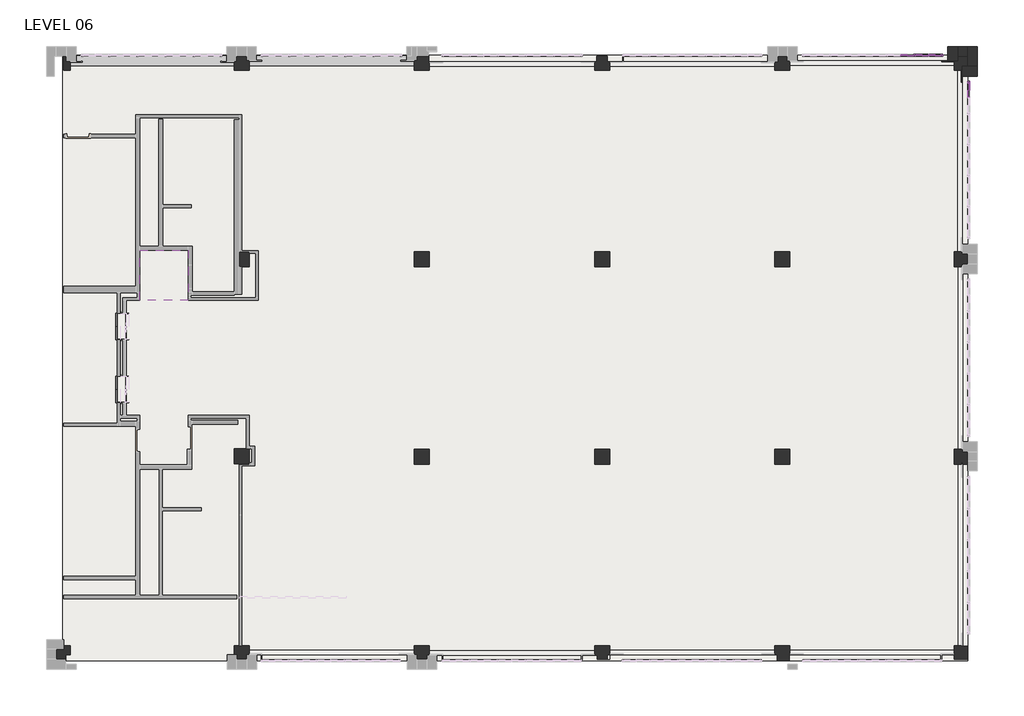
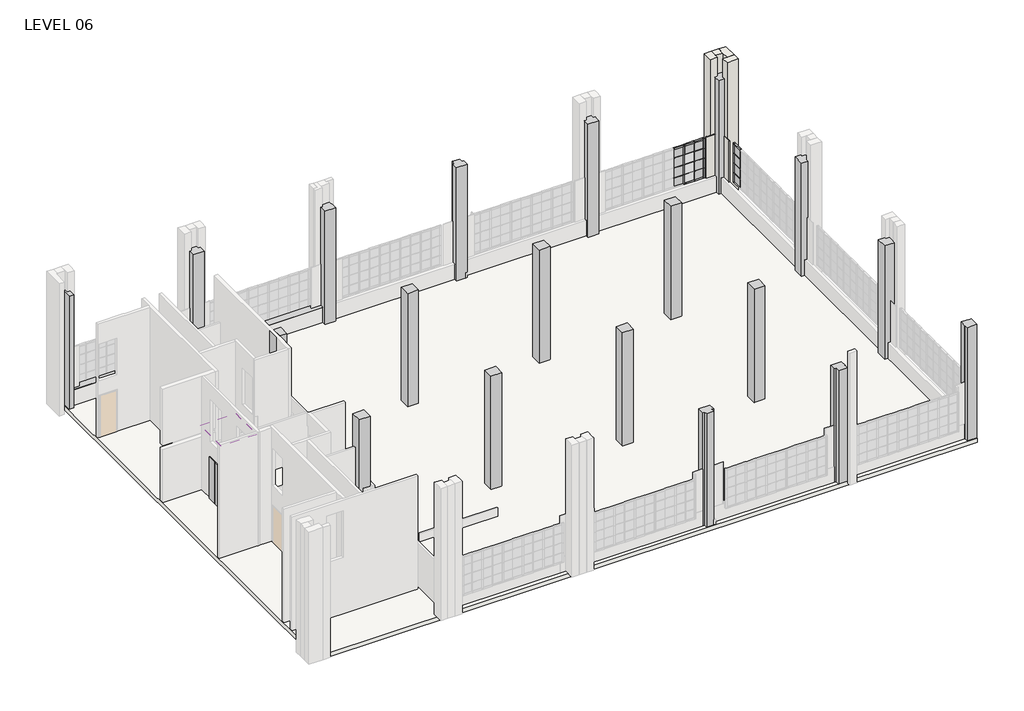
# One storey, part 16 of 16: 34 members, 22 columns, 13 plates, 9 proxies, 8 walls, 2 furniture elements, 1 covering, 1 slab.
"""IFC4 building model written with IfcOpenShell, lengths in millimetres."""

from ifc_helpers import new_model, si_unit, frame, origin, place, context, project, spatial, polyline, outline, extrude, faceted_brep, transform, mapped, element, save
from components import proxy_6c0da019, receptacle_wall_mounted_data_rectangular_face_plate_b5f3fb20, receptacle_wall_mounted_duplex_77620e8f, receptacle_wall_mounted_duplex_715ea828, architectural_rectangular_variable_dimensions_default_6b935929, furniture_2e8edbcf, furniture_16195ded, member_d9fe2114, member_fd592df6, member_78bb2ef1, member_dcd82389, member_17eb62f4, member_ba51e770, member_6e5aab5d, member_bacafba3, member_a6d649dc, member_fd366a57, system_panel_glazed_9a2ceec3, system_panel_glazed_95990db4, system_panel_glazed_84a10c8e, system_panel_glazed_44697018, system_panel_glazed_99b9b709, system_panel_glazed_bf1454fd

model = new_model("IFC4")

# Units and contexts
model_context = context("Model", 3, world=origin())
ifc_project = project(units=[si_unit("LENGTHUNIT", "METRE", prefix="MILLI")], contexts=[model_context])

# Site, building, storey
site = spatial("IfcSite", under=ifc_project)
building = spatial("IfcBuilding", under=site)
storey = spatial("IfcBuildingStorey", under=building, Name="LEVEL 06", Elevation=17449.8)

# Proxies
placement = place(None, origin())
proxy_shape = proxy_6c0da019(model_context)
element("IfcBuildingElementProxy", 1, Name="Elevator - Double Door - HW : 42\" x 96\"", ObjectType="Elevator - Double Door - HW : 42\" x 96\"", at=placement, inside=storey, context=model_context, shape_type="MappedRepresentation", body=[
    mapped(proxy_shape, transform((-35153.2082298, -14149.27762, 17449.8), x_axis=(0.0, -1.0, 0.0), y_axis=(1.0, 0.0, 0.0), z_axis=(0.0, 0.0, 1.0))),
])
element("IfcBuildingElementProxy", 2, Name="Elevator - Double Door - HW : 42\" x 96\"", ObjectType="Elevator - Double Door - HW : 42\" x 96\"", at=placement, inside=storey, context=model_context, shape_type="MappedRepresentation", body=[
    mapped(proxy_shape, transform((-35153.2082298, -11579.2714012, 17449.8), x_axis=(0.0, -1.0, 0.0), y_axis=(1.0, 0.0, 0.0), z_axis=(0.0, 0.0, 1.0))),
])
receptacle_wall_mounted_data_rectangular_face_plate_shape = receptacle_wall_mounted_data_rectangular_face_plate_b5f3fb20(model_context)
element("IfcBuildingElementProxy", 3, Name="Receptacle_Wall Mounted - Data : Rectangular Face Plate", ObjectType="Receptacle_Wall Mounted - Data : Rectangular Face Plate", at=placement, inside=storey, context=model_context, shape_type="MappedRepresentation", body=[
    mapped(receptacle_wall_mounted_data_rectangular_face_plate_shape, transform((-30177.9832282, -18093.8569272, 17449.8), x_axis=(0.0, -1.0, 0.0), y_axis=(1.0, 0.0, 0.0), z_axis=(0.0, 0.0, 1.0))),
])
receptacle_wall_mounted_duplex_shape = receptacle_wall_mounted_duplex_77620e8f(model_context)
element("IfcBuildingElementProxy", 4, Name="Receptacle_Wall Mounted - Duplex : Convenience", ObjectType="Receptacle_Wall Mounted - Duplex : Convenience", at=placement, inside=storey, context=model_context, shape_type="MappedRepresentation", body=[
    mapped(receptacle_wall_mounted_duplex_shape, transform((-32256.0222362, -10216.3282337, 17449.8), x_axis=(0.0, -1.0, 0.0), y_axis=(1.0, 0.0, 0.0), z_axis=(0.0, 0.0, 1.0))),
])
element("IfcBuildingElementProxy", 5, Name="Receptacle_Wall Mounted - Duplex : Convenience", ObjectType="Receptacle_Wall Mounted - Duplex : Convenience", at=placement, inside=storey, context=model_context, shape_type="MappedRepresentation", body=[
    mapped(receptacle_wall_mounted_data_rectangular_face_plate_shape, transform((-29881.1099596, -15553.5059789, 17449.8), x_axis=(0.0, -1.0, 0.0), y_axis=(1.0, 0.0, 0.0), z_axis=(0.0, 0.0, 1.0))),
])
element("IfcBuildingElementProxy", 6, Name="Receptacle_Wall Mounted - Duplex : Convenience", ObjectType="Receptacle_Wall Mounted - Duplex : Convenience", at=placement, inside=storey, context=model_context, shape_type="MappedRepresentation", body=[
    mapped(receptacle_wall_mounted_data_rectangular_face_plate_shape, transform((-30177.9832282, -17865.2569272, 17449.8), x_axis=(0.0, -1.0, 0.0), y_axis=(1.0, 0.0, 0.0), z_axis=(0.0, 0.0, 1.0))),
])
receptacle_wall_mounted_duplex_2_shape = receptacle_wall_mounted_duplex_715ea828(model_context)
element("IfcBuildingElementProxy", 7, Name="Receptacle_Wall Mounted - Duplex : Convenience", ObjectType="Receptacle_Wall Mounted - Duplex : Convenience", at=placement, inside=storey, context=model_context, shape_type="MappedRepresentation", body=[
    mapped(receptacle_wall_mounted_duplex_2_shape, transform((-15155.4599596, -24648.7440665, 17449.8), x_axis=(0.0, -1.0, 0.0), y_axis=(1.0, 0.0, 0.0), z_axis=(0.0, 0.0, 1.0))),
])
element("IfcBuildingElementProxy", 8, Name="Receptacle_Wall Mounted - Duplex : Convenience", ObjectType="Receptacle_Wall Mounted - Duplex : Convenience", at=placement, inside=storey, context=model_context, shape_type="MappedRepresentation", body=[
    mapped(receptacle_wall_mounted_duplex_2_shape, transform((-15155.4599596, -880.6940665, 17449.8), x_axis=(0.0, -1.0, 0.0), y_axis=(1.0, 0.0, 0.0), z_axis=(0.0, 0.0, 1.0))),
])
element("IfcBuildingElementProxy", 9, Name="Receptacle_Wall Mounted - Duplex : Convenience", ObjectType="Receptacle_Wall Mounted - Duplex : Convenience", at=placement, inside=storey, context=model_context, shape_type="MappedRepresentation", body=[
    mapped(receptacle_wall_mounted_duplex_shape, transform((-32256.0222362, -15318.5559789, 17449.8), x_axis=(0.0, -1.0, 0.0), y_axis=(1.0, 0.0, 0.0), z_axis=(0.0, 0.0, 1.0))),
])

# Columns
element("IfcColumn", 10, ObjectType="Architectural - Rectangular - Variable Dimensions : Default", at=placement, inside=storey, context=model_context, shape_type="SweptSolid", body=[
    extrude(outline(polyline([(-7742.4721136, -8425.3738171), (-7742.4721136, -9034.9738171), (-8352.0721136, -9034.9738171), (-8352.0721136, -8425.3738171), (-7742.4721136, -8425.3738171)])), frame((0.0, 0.0, 17449.8), z_axis=(0.0, 0.0, 1.0), x_axis=(1.0, 0.0, 0.0)), (0.0, 0.0, 1.0), 6705.6),
])
element("IfcColumn", 11, ObjectType="Architectural - Rectangular - Variable Dimensions : Default", at=placement, inside=storey, context=model_context, shape_type="Brep", body=[
    faceted_brep([(-7742.4721136, -24526.3101345, 24155.4), (-8352.0721136, -24526.3101345, 24155.4), (-8352.0721136, -24886.7398215, 24155.4), (-8252.0596136, -24886.7398215, 24155.4), (-8252.0596136, -25084.033955, 24155.4), (-8252.0596136, -25135.9101345, 24155.4), (-7830.7349596, -25135.9101345, 24155.4), (-7757.7099596, -25135.9101345, 24155.4), (-7757.7099596, -24886.7398215, 24155.4), (-7742.4721136, -24886.7398215, 24155.4), (-8352.0721136, -24526.3101345, 17449.8), (-7742.4721136, -24526.3101345, 17449.8), (-7742.4721136, -24886.7398215, 17449.8), (-7757.7099596, -24886.7398215, 17449.8), (-7757.7099596, -25135.9101345, 17449.8), (-7830.7349596, -25135.9101345, 17449.8), (-8252.0596136, -25135.9101345, 17449.8), (-8252.0596136, -25084.033955, 17449.8), (-8252.0596136, -24886.7398215, 17449.8), (-8352.0721136, -24886.7398215, 17449.8)], [[[0, 1, 2, 3, 4, 5, 6, 7, 8, 9]], [[10, 11, 12, 13, 14, 15, 16, 17, 18, 19]], [[1, 0, 11, 10]], [[1, 10, 19, 2]], [[14, 7, 6, 5, 16, 15]], [[11, 0, 9, 12]], [[9, 8, 13, 12]], [[8, 7, 14, 13]], [[3, 18, 17, 16, 5, 4]], [[18, 3, 2, 19]]]),
])
element("IfcColumn", 12, ObjectType="Architectural - Rectangular - Variable Dimensions : Default", at=placement, inside=storey, context=model_context, shape_type="SweptSolid", body=[
    extrude(outline(polyline([(-7742.4721136, -403.225), (-7742.4721136, -1012.825), (-8352.0721136, -1012.825), (-8352.0721136, -663.575), (-8246.7173649, -663.575), (-8246.7173649, -450.85), (-7842.4846136, -450.85), (-7842.4846136, -403.225), (-7742.4721136, -403.225)])), frame((0.0, 0.0, 17449.8), z_axis=(0.0, 0.0, 1.0), x_axis=(1.0, 0.0, 0.0)), (0.0, 0.0, 1.0), 6705.6),
])
element("IfcColumn", 13, ObjectType="Architectural - Rectangular - Variable Dimensions : Default", at=placement, inside=storey, context=model_context, shape_type="SweptSolid", body=[
    extrude(outline(polyline([(-1036.2349596, -9034.9738171), (-1036.2349596, -8425.3738171), (-709.2099596, -8425.3738171), (-709.2099596, -8518.525), (-480.6099596, -8518.525), (-480.6099596, -8934.9613171), (-677.4599596, -8934.9613171), (-677.4599596, -9034.9738171), (-1036.2349596, -9034.9738171)])), frame((0.0, 0.0, 17449.8), z_axis=(0.0, 0.0, 1.0), x_axis=(1.0, 0.0, 0.0)), (0.0, 0.0, 1.0), 6705.6),
])
element("IfcColumn", 14, ObjectType="Architectural - Rectangular - Variable Dimensions : Default", at=placement, inside=storey, context=model_context, shape_type="SweptSolid", body=[
    extrude(outline(polyline([(-1036.2349596, -17109.5101345), (-1036.2349596, -16499.9101345), (-677.4599596, -16499.9101345), (-677.4599596, -16593.0613171), (-480.6099596, -16593.0613171), (-480.6099596, -16984.3185128), (-483.7849596, -16984.3185128), (-483.7849596, -17109.5101345), (-1036.2349596, -17109.5101345)])), frame((0.0, 0.0, 17449.8), z_axis=(0.0, 0.0, 1.0), x_axis=(1.0, 0.0, 0.0)), (0.0, 0.0, 1.0), 6705.6),
])
element("IfcColumn", 15, ObjectType="Architectural - Rectangular - Variable Dimensions : Default", at=placement, inside=storey, context=model_context, shape_type="SweptSolid", body=[
    extrude(outline(polyline([(-480.6099596, -25083.5898215), (-1026.7099596, -25083.5898215), (-1026.7099596, -24886.7398215), (-1036.2349596, -24886.7398215), (-1036.2349596, -24526.3101345), (-683.8099596, -24526.3101345), (-683.8099596, -24550.3435128), (-480.6099596, -24550.3435128), (-480.6099596, -25083.5898215)])), frame((0.0, 0.0, 17449.8), z_axis=(0.0, 0.0, 1.0), x_axis=(1.0, 0.0, 0.0)), (0.0, 0.0, 1.0), 6705.6),
])
element("IfcColumn", 16, ObjectType="Architectural - Rectangular - Variable Dimensions : Default", at=placement, inside=storey, context=model_context, shape_type="SweptSolid", body=[
    extrude(outline(polyline([(-426.6349596, -1012.825), (-1036.2349596, -1012.825), (-1036.2349596, -631.825), (-890.1849596, -631.825), (-890.1849596, -450.85), (-480.6099596, -450.85), (-480.6099596, -860.425), (-426.6349596, -860.425), (-426.6349596, -1012.825)])), frame((0.0, 0.0, 17449.8), z_axis=(0.0, 0.0, 1.0), x_axis=(1.0, 0.0, 0.0)), (0.0, 0.0, 1.0), 6705.6),
])
element("IfcColumn", 17, ObjectType="Architectural - Rectangular - Variable Dimensions : Default", at=placement, inside=storey, context=model_context, shape_type="SweptSolid", body=[
    extrude(outline(polyline([(-15107.8349596, -8425.3738171), (-15107.8349596, -9034.9738171), (-15717.4349596, -9034.9738171), (-15717.4349596, -8425.3738171), (-15107.8349596, -8425.3738171)])), frame((0.0, 0.0, 17449.8), z_axis=(0.0, 0.0, 1.0), x_axis=(1.0, 0.0, 0.0)), (0.0, 0.0, 1.0), 6705.6),
])
element("IfcColumn", 18, ObjectType="Architectural - Rectangular - Variable Dimensions : Default", at=placement, inside=storey, context=model_context, shape_type="SweptSolid", body=[
    extrude(outline(polyline([(-15107.8349596, -16499.9101345), (-15107.8349596, -17109.5101345), (-15717.4349596, -17109.5101345), (-15717.4349596, -16499.9101345), (-15107.8349596, -16499.9101345)])), frame((0.0, 0.0, 17449.8), z_axis=(0.0, 0.0, 1.0), x_axis=(1.0, 0.0, 0.0)), (0.0, 0.0, 1.0), 6705.6),
])
element("IfcColumn", 19, ObjectType="Architectural - Rectangular - Variable Dimensions : Default", at=placement, inside=storey, context=model_context, shape_type="SweptSolid", body=[
    extrude(outline(polyline([(-15717.4349596, -24526.3101345), (-15107.8349596, -24526.3101345), (-15107.8349596, -24886.7398215), (-15198.9596136, -24886.7398215), (-15198.9596136, -25084.033955), (-15613.9342677, -25084.033955), (-15613.9342677, -24903.058955), (-15717.4349596, -24903.058955), (-15717.4349596, -24526.3101345)])), frame((0.0, 0.0, 17449.8), z_axis=(0.0, 0.0, 1.0), x_axis=(1.0, 0.0, 0.0)), (0.0, 0.0, 1.0), 6705.6),
])
element("IfcColumn", 20, ObjectType="Architectural - Rectangular - Variable Dimensions : Default", at=placement, inside=storey, context=model_context, shape_type="SweptSolid", body=[
    extrude(outline(polyline([(-15107.8349596, -1012.825), (-15717.4349596, -1012.825), (-15717.4349596, -663.575), (-15619.3339217, -663.575), (-15619.3339217, -450.85), (-15203.0849596, -450.85), (-15203.0849596, -663.575), (-15107.8349596, -663.575), (-15107.8349596, -1012.825)])), frame((0.0, 0.0, 17449.8), z_axis=(0.0, 0.0, 1.0), x_axis=(1.0, 0.0, 0.0)), (0.0, 0.0, 1.0), 6705.6),
])
element("IfcColumn", 21, ObjectType="Architectural - Rectangular - Variable Dimensions : Default", at=placement, inside=storey, context=model_context, shape_type="SweptSolid", body=[
    extrude(outline(polyline([(-22467.4849596, -8425.3738171), (-22467.4849596, -9034.9738171), (-23077.0849596, -9034.9738171), (-23077.0849596, -8425.3738171), (-22467.4849596, -8425.3738171)])), frame((0.0, 0.0, 17449.8), z_axis=(0.0, 0.0, 1.0), x_axis=(1.0, 0.0, 0.0)), (0.0, 0.0, 1.0), 6705.6),
])
element("IfcColumn", 22, ObjectType="Architectural - Rectangular - Variable Dimensions : Default", at=placement, inside=storey, context=model_context, shape_type="SweptSolid", body=[
    extrude(outline(polyline([(-22467.4849596, -16499.9101345), (-22467.4849596, -17109.5101345), (-23077.0849596, -17109.5101345), (-23077.0849596, -16499.9101345), (-22467.4849596, -16499.9101345)])), frame((0.0, 0.0, 17449.8), z_axis=(0.0, 0.0, 1.0), x_axis=(1.0, 0.0, 0.0)), (0.0, 0.0, 1.0), 6705.6),
])
element("IfcColumn", 23, ObjectType="Architectural - Rectangular - Variable Dimensions : Default", at=placement, inside=storey, context=model_context, shape_type="SweptSolid", body=[
    extrude(outline(polyline([(-22467.4849596, -1012.825), (-23077.0849596, -1012.825), (-23077.0849596, -612.775), (-22981.2085758, -612.775), (-22981.2085758, -450.85), (-22499.5589217, -450.85), (-22499.5589217, -663.575), (-22467.4849596, -663.575), (-22467.4849596, -1012.825)])), frame((0.0, 0.0, 17449.8), z_axis=(0.0, 0.0, 1.0), x_axis=(1.0, 0.0, 0.0)), (0.0, 0.0, 1.0), 6705.6),
])
element("IfcColumn", 24, ObjectType="Architectural - Rectangular - Variable Dimensions : Default", at=placement, inside=storey, context=model_context, shape_type="SweptSolid", body=[
    extrude(outline(polyline([(-29827.1349596, -8425.3738171), (-29827.1349596, -9034.9738171), (-30231.9582282, -9034.9738171), (-30231.9582282, -8425.3738171), (-29827.1349596, -8425.3738171)])), frame((0.0, 0.0, 17449.8), z_axis=(0.0, 0.0, 1.0), x_axis=(1.0, 0.0, 0.0)), (0.0, 0.0, 1.0), 6705.6),
    extrude(outline(polyline([(-30436.7349596, -9034.9738171), (-30436.7349596, -8425.3738171), (-30435.1582282, -8425.3738171), (-30435.1582282, -9034.9738171), (-30436.7349596, -9034.9738171)])), frame((0.0, 0.0, 17449.8), z_axis=(0.0, 0.0, 1.0), x_axis=(1.0, 0.0, 0.0)), (0.0, 0.0, 1.0), 6705.6),
])
element("IfcColumn", 25, ObjectType="Architectural - Rectangular - Variable Dimensions : Default", at=placement, inside=storey, context=model_context, shape_type="SweptSolid", body=[
    extrude(outline(polyline([(-30436.7349596, -24526.3101345), (-29827.1349596, -24526.3101345), (-29827.1349596, -24881.6862062), (-29922.7089217, -24881.6862062), (-29922.7089217, -25084.033955), (-30327.2082298, -25084.033955), (-30327.2082298, -24880.833955), (-30436.7349596, -24880.833955), (-30436.7349596, -24526.3101345)])), frame((0.0, 0.0, 17449.8), z_axis=(0.0, 0.0, 1.0), x_axis=(1.0, 0.0, 0.0)), (0.0, 0.0, 1.0), 6705.6),
])
element("IfcColumn", 26, ObjectType="Architectural - Rectangular - Variable Dimensions : Default", at=placement, inside=storey, context=model_context, shape_type="SweptSolid", body=[
    extrude(outline(polyline([(-29827.1349596, -1012.825), (-30436.7349596, -1012.825), (-30436.7349596, -403.225), (-30343.0832298, -403.225), (-30343.0832298, -450.85), (-29928.1085758, -450.85), (-29928.1085758, -612.775), (-29827.1349596, -612.775), (-29827.1349596, -1012.825)])), frame((0.0, 0.0, 17449.8), z_axis=(0.0, 0.0, 1.0), x_axis=(1.0, 0.0, 0.0)), (0.0, 0.0, 1.0), 6705.6),
])
element("IfcColumn", 27, ObjectType="Architectural - Rectangular - Variable Dimensions : Default", at=placement, inside=storey, context=model_context, shape_type="SweptSolid", body=[
    extrude(outline(polyline([(-37699.5582298, -25084.033955), (-37699.5582298, -24674.458955), (-37391.5832298, -24674.458955), (-37391.5832298, -24526.3101345), (-37135.9849596, -24526.3101345), (-37135.9849596, -24880.833955), (-37309.0332298, -24880.833955), (-37309.0332298, -25084.033955), (-37699.5582298, -25084.033955)])), frame((0.0, 0.0, 17449.8), z_axis=(0.0, 0.0, 1.0), x_axis=(1.0, 0.0, 0.0)), (0.0, 0.0, 1.0), 6705.6),
])
element("IfcColumn", 28, ObjectType="Architectural - Rectangular - Variable Dimensions : Default", at=placement, inside=storey, context=model_context, shape_type="Brep", body=[
    faceted_brep([(-37391.5832298, -1012.825, 24155.4), (-37135.9849596, -1012.825, 24155.4), (-37135.9849596, -654.05, 24155.4), (-37289.9832298, -654.05, 24155.4), (-37289.9832298, -450.85, 24155.4), (-37391.5832298, -450.85, 24155.4), (-37135.9849596, -1012.825, 17449.8), (-37391.5832298, -1012.825, 17449.8), (-37135.9849596, -654.05, 17449.8), (-37289.9832298, -450.85, 17449.8), (-37391.5832298, -450.85, 17449.8), (-37391.5832298, -450.85, 20574.0), (-37391.5832298, -450.85, 20802.6), (-37289.9832298, -654.05, 17449.8)], [[[0, 1, 2, 3, 4, 5]], [[6, 1, 0, 7]], [[1, 6, 8, 2]], [[5, 4, 9, 10, 11, 12]], [[0, 5, 12, 11, 10, 7]], [[3, 13, 9, 4]], [[13, 3, 2, 8]], [[8, 6, 7, 10, 9, 13]]]),
])
element("IfcColumn", 29, ObjectType="Architectural - Rectangular - Variable Dimensions : Default", at=placement, inside=storey, context=model_context, shape_type="SweptSolid", body=[
    extrude(outline(polyline([(-29827.1349596, -17096.8106631), (-30436.7349596, -17096.8106631), (-30436.7349596, -16487.2106631), (-29827.1349596, -16487.2106631), (-29827.1349596, -17096.8106631)])), frame((0.0, 0.0, 17449.8), z_axis=(0.0, 0.0, 1.0), x_axis=(1.0, 0.0, 0.0)), (0.0, 0.0, 1.0), 6705.6),
])
architectural_rectangular_variable_dimensions_default_shape = architectural_rectangular_variable_dimensions_default_6b935929(model_context)
element("IfcColumn", 30, ObjectType="Architectural - Rectangular - Variable Dimensions : Default", at=placement, inside=storey, context=model_context, shape_type="MappedRepresentation", body=[
    mapped(architectural_rectangular_variable_dimensions_default_shape, transform((-8047.2721136, -16503.3871205, 0.0), x_axis=(1.0, 0.0, 0.0), y_axis=(0.0, 1.0, 0.0), z_axis=(0.0, 0.0, 1.0))),
])
element("IfcColumn", 31, ObjectType="Architectural - Rectangular - Variable Dimensions : Default", at=placement, inside=storey, context=model_context, shape_type="MappedRepresentation", body=[
    mapped(architectural_rectangular_variable_dimensions_default_shape, transform((-22772.2849596, -24529.7871205, 0.0), x_axis=(1.0, 0.0, 0.0), y_axis=(0.0, 1.0, 0.0), z_axis=(0.0, 0.0, 1.0))),
])

# Covering
element("IfcCovering", 32, ObjectType="1/2\" GWB  on 6\" Metal Stud", at=placement, inside=storey, context=model_context, shape_type="SweptSolid", body=[
    extrude(outline(polyline([(-34295.9623534, -17167.9919741), (-34295.9623534, -15116.9419725), (-32309.9972362, -15116.9419725), (-32309.9972362, -17167.9919741), (-34295.9623534, -17167.9919741)])), frame((0.0, 0.0, 19888.2), z_axis=(0.0, 0.0, 1.0), x_axis=(1.0, 0.0, 0.0)), (0.0, 0.0, 1.0), 152.4),
    extrude(outline(polyline([(-34295.9582282, -8360.5418823), (-32309.9972362, -8360.5418823), (-32309.9972362, -10417.9422401), (-34295.9582282, -10417.9422401), (-34295.9582282, -8360.5418823)])), frame((0.0, 0.0, 19888.2), z_axis=(0.0, 0.0, 1.0), x_axis=(1.0, 0.0, 0.0)), (0.0, 0.0, 1.0), 152.4),
])

# Furniture
furniture_shape = furniture_2e8edbcf(model_context)
element("IfcFurniture", 33, ObjectType="Countertop - Straight : 16\" DEPTH - WINDOW SILL", at=placement, inside=storey, context=model_context, shape_type="MappedRepresentation", body=[
    mapped(furniture_shape, transform((-35935.5226645, -431.8, 17519.65), x_axis=(1.0, 0.0, 0.0), y_axis=(0.0, 1.0, 0.0), z_axis=(0.0, 0.0, 1.0))),
])
furniture_2_shape = furniture_16195ded(model_context)
element("IfcFurniture", 34, ObjectType="Countertop - Straight : 16\" DEPTH - WINDOW SILL", at=placement, inside=storey, context=model_context, shape_type="MappedRepresentation", body=[
    mapped(furniture_2_shape, transform((-28648.7463306, -431.8, 17519.65), x_axis=(1.0, 0.0, 0.0), y_axis=(0.0, 1.0, 0.0), z_axis=(0.0, 0.0, 1.0))),
])

# Members
member_shape = member_d9fe2114(model_context)
element("IfcMember", 35, ObjectType="Rectangular Mullion : 1\" x 1\" - Butt Joint", at=placement, inside=storey, context=model_context, shape_type="MappedRepresentation", body=[
    mapped(member_shape, transform((-2680.1771519, -412.75, 19989.8), x_axis=(0.0, 0.0, 1.0), y_axis=(0.0, -1.0, 0.0), z_axis=(1.0, 0.0, 0.0))),
])
element("IfcMember", 36, ObjectType="Rectangular Mullion : 1\" x 1\" - Butt Joint", at=placement, inside=storey, context=model_context, shape_type="MappedRepresentation", body=[
    mapped(member_shape, transform((-2080.7371519, -412.75, 19989.8), x_axis=(0.0, 0.0, 1.0), y_axis=(0.0, -1.0, 0.0), z_axis=(1.0, 0.0, 0.0))),
])
element("IfcMember", 37, ObjectType="Rectangular Mullion : 1\" x 1\" - Butt Joint", at=placement, inside=storey, context=model_context, shape_type="MappedRepresentation", body=[
    mapped(member_shape, transform((-2680.1771519, -412.75, 19405.6), x_axis=(0.0, 0.0, 1.0), y_axis=(0.0, -1.0, 0.0), z_axis=(1.0, 0.0, 0.0))),
])
element("IfcMember", 38, ObjectType="Rectangular Mullion : 1\" x 1\" - Butt Joint", at=placement, inside=storey, context=model_context, shape_type="MappedRepresentation", body=[
    mapped(member_shape, transform((-2080.7371519, -412.75, 19405.6), x_axis=(0.0, 0.0, 1.0), y_axis=(0.0, -1.0, 0.0), z_axis=(1.0, 0.0, 0.0))),
])
element("IfcMember", 39, ObjectType="Rectangular Mullion : 1\" x 1\" - Butt Joint", at=placement, inside=storey, context=model_context, shape_type="MappedRepresentation", body=[
    mapped(member_shape, transform((-2680.1771519, -412.75, 18821.4), x_axis=(0.0, 0.0, 1.0), y_axis=(0.0, -1.0, 0.0), z_axis=(1.0, 0.0, 0.0))),
])
element("IfcMember", 40, ObjectType="Rectangular Mullion : 1\" x 1\" - Butt Joint", at=placement, inside=storey, context=model_context, shape_type="MappedRepresentation", body=[
    mapped(member_shape, transform((-2080.7371519, -412.75, 18821.4), x_axis=(0.0, 0.0, 1.0), y_axis=(0.0, -1.0, 0.0), z_axis=(1.0, 0.0, 0.0))),
])
member_2_shape = member_fd592df6(model_context)
element("IfcMember", 41, ObjectType="Rectangular Mullion : 1\" x 1\" - Butt Joint", at=placement, inside=storey, context=model_context, shape_type="MappedRepresentation", body=[
    mapped(member_2_shape, transform((-1570.1971519, -412.75, 19989.8), x_axis=(0.0, 0.0, 1.0), y_axis=(0.0, -1.0, 0.0), z_axis=(1.0, 0.0, 0.0))),
])
element("IfcMember", 42, ObjectType="Rectangular Mullion : 1\" x 1\" - Butt Joint", at=placement, inside=storey, context=model_context, shape_type="MappedRepresentation", body=[
    mapped(member_2_shape, transform((-1570.1971519, -412.75, 19405.6), x_axis=(0.0, 0.0, 1.0), y_axis=(0.0, -1.0, 0.0), z_axis=(1.0, 0.0, 0.0))),
])
element("IfcMember", 43, ObjectType="Rectangular Mullion : 1\" x 1\" - Butt Joint", at=placement, inside=storey, context=model_context, shape_type="MappedRepresentation", body=[
    mapped(member_2_shape, transform((-1570.1971519, -412.75, 18821.4), x_axis=(0.0, 0.0, 1.0), y_axis=(0.0, -1.0, 0.0), z_axis=(1.0, 0.0, 0.0))),
])
member_3_shape = member_78bb2ef1(model_context)
element("IfcMember", 44, ObjectType="Rectangular Mullion : 1\" x 1\" - Butt Joint", at=placement, inside=storey, context=model_context, shape_type="MappedRepresentation", body=[
    mapped(member_3_shape, transform((-2068.0371519, -412.75, 19989.8), x_axis=(1.0, 0.0, 0.0), y_axis=(0.0, -1.0, 0.0), z_axis=(0.0, 0.0, -1.0))),
])
element("IfcMember", 45, ObjectType="Rectangular Mullion : 1\" x 1\" - Butt Joint", at=placement, inside=storey, context=model_context, shape_type="MappedRepresentation", body=[
    mapped(member_3_shape, transform((-2068.0371519, -412.75, 18821.4), x_axis=(1.0, 0.0, 0.0), y_axis=(0.0, -1.0, 0.0), z_axis=(0.0, 0.0, -1.0))),
])
element("IfcMember", 46, ObjectType="Rectangular Mullion : 1\" x 1\" - Butt Joint", at=placement, inside=storey, context=model_context, shape_type="MappedRepresentation", body=[
    mapped(member_3_shape, transform((-2068.0371519, -412.75, 19405.6), x_axis=(1.0, 0.0, 0.0), y_axis=(0.0, -1.0, 0.0), z_axis=(0.0, 0.0, -1.0))),
])
element("IfcMember", 47, ObjectType="Rectangular Mullion : 1\" x 1\" - Butt Joint", at=placement, inside=storey, context=model_context, shape_type="MappedRepresentation", body=[
    mapped(member_3_shape, transform((-2068.0371519, -412.75, 18237.2), x_axis=(1.0, 0.0, 0.0), y_axis=(0.0, -1.0, 0.0), z_axis=(0.0, 0.0, -1.0))),
])
member_4_shape = member_dcd82389(model_context)
element("IfcMember", 48, ObjectType="Rectangular Mullion : 1\" x 1\" - Butt Joint", at=placement, inside=storey, context=model_context, shape_type="MappedRepresentation", body=[
    mapped(member_4_shape, transform((-445.6849596, -1539.9470775, 19989.8), x_axis=(0.0, 0.0, 1.0), y_axis=(1.0, 0.0, 0.0), z_axis=(0.0, 1.0, 0.0))),
])
element("IfcMember", 49, ObjectType="Rectangular Mullion : 1\" x 1\" - Butt Joint", at=placement, inside=storey, context=model_context, shape_type="MappedRepresentation", body=[
    mapped(member_4_shape, transform((-445.6849596, -1539.9470775, 19405.6), x_axis=(0.0, 0.0, 1.0), y_axis=(1.0, 0.0, 0.0), z_axis=(0.0, 1.0, 0.0))),
])
element("IfcMember", 50, ObjectType="Rectangular Mullion : 1\" x 1\" - Butt Joint", at=placement, inside=storey, context=model_context, shape_type="MappedRepresentation", body=[
    mapped(member_4_shape, transform((-445.6849596, -1539.9470775, 18821.4), x_axis=(0.0, 0.0, 1.0), y_axis=(1.0, 0.0, 0.0), z_axis=(0.0, 1.0, 0.0))),
])
member_5_shape = member_17eb62f4(model_context)
element("IfcMember", 51, ObjectType="Rectangular Mullion : 3\" x 3\" Window Jamb", at=placement, inside=storey, context=model_context, shape_type="MappedRepresentation", body=[
    mapped(member_5_shape, transform((-445.6849596, -1463.7470775, 19989.8), x_axis=(0.0, 1.0, 0.0), y_axis=(1.0, 0.0, 0.0), z_axis=(0.0, 0.0, -1.0))),
])
element("IfcMember", 52, ObjectType="Rectangular Mullion : 3\" x 3\" Window Jamb", at=placement, inside=storey, context=model_context, shape_type="MappedRepresentation", body=[
    mapped(member_5_shape, transform((-445.6849596, -1463.7470775, 18821.4), x_axis=(0.0, 1.0, 0.0), y_axis=(1.0, 0.0, 0.0), z_axis=(0.0, 0.0, -1.0))),
])
element("IfcMember", 53, ObjectType="Rectangular Mullion : 3\" x 3\" Window Jamb", at=placement, inside=storey, context=model_context, shape_type="MappedRepresentation", body=[
    mapped(member_5_shape, transform((-445.6849596, -1463.7470775, 19405.6), x_axis=(0.0, 1.0, 0.0), y_axis=(1.0, 0.0, 0.0), z_axis=(0.0, 0.0, -1.0))),
])
element("IfcMember", 54, ObjectType="Rectangular Mullion : 3\" x 3\" Window Jamb", at=placement, inside=storey, context=model_context, shape_type="MappedRepresentation", body=[
    mapped(member_5_shape, transform((-445.6849596, -1463.7470775, 18237.2), x_axis=(0.0, 1.0, 0.0), y_axis=(1.0, 0.0, 0.0), z_axis=(0.0, 0.0, -1.0))),
])
member_6_shape = member_ba51e770(model_context)
element("IfcMember", 55, ObjectType="Rectangular Mullion : 3\" x 3\" Window Jamb", at=placement, inside=storey, context=model_context, shape_type="MappedRepresentation", body=[
    mapped(member_6_shape, transform((-1570.1971519, -412.75, 20574.0), x_axis=(0.0, 0.0, 1.0), y_axis=(0.0, -1.0, 0.0), z_axis=(1.0, 0.0, 0.0))),
])
member_7_shape = member_6e5aab5d(model_context)
element("IfcMember", 56, ObjectType="Rectangular Mullion : 3\" x 3\" Window Jamb", at=placement, inside=storey, context=model_context, shape_type="MappedRepresentation", body=[
    mapped(member_7_shape, transform((-2080.7371519, -412.75, 20574.0), x_axis=(0.0, 0.0, 1.0), y_axis=(0.0, -1.0, 0.0), z_axis=(1.0, 0.0, 0.0))),
])
element("IfcMember", 57, ObjectType="Rectangular Mullion : 3\" x 3\" Window Jamb", at=placement, inside=storey, context=model_context, shape_type="MappedRepresentation", body=[
    mapped(member_7_shape, transform((-2680.1771519, -412.75, 20574.0), x_axis=(0.0, 0.0, 1.0), y_axis=(0.0, -1.0, 0.0), z_axis=(1.0, 0.0, 0.0))),
])
element("IfcMember", 58, ObjectType="Rectangular Mullion : 3\" x 3\" Window Jamb", at=placement, inside=storey, context=model_context, shape_type="MappedRepresentation", body=[
    mapped(member_7_shape, transform((-2603.9771519, -412.75, 18237.2), x_axis=(0.0, 0.0, -1.0), y_axis=(0.0, -1.0, 0.0), z_axis=(-1.0, 0.0, 0.0))),
])
element("IfcMember", 59, ObjectType="Rectangular Mullion : 3\" x 3\" Window Jamb", at=placement, inside=storey, context=model_context, shape_type="MappedRepresentation", body=[
    mapped(member_6_shape, transform((-2055.3371519, -412.75, 18237.2), x_axis=(0.0, 0.0, -1.0), y_axis=(0.0, -1.0, 0.0), z_axis=(-1.0, 0.0, 0.0))),
])
member_8_shape = member_bacafba3(model_context)
element("IfcMember", 60, ObjectType="Rectangular Mullion : 3\" x 3\" Window Jamb", at=placement, inside=storey, context=model_context, shape_type="MappedRepresentation", body=[
    mapped(member_8_shape, transform((-2642.0771519, -412.75, 19989.8), x_axis=(1.0, 0.0, 0.0), y_axis=(0.0, -1.0, 0.0), z_axis=(0.0, 0.0, -1.0))),
])
element("IfcMember", 61, ObjectType="Rectangular Mullion : 3\" x 3\" Window Jamb", at=placement, inside=storey, context=model_context, shape_type="MappedRepresentation", body=[
    mapped(member_8_shape, transform((-2642.0771519, -412.75, 18821.4), x_axis=(1.0, 0.0, 0.0), y_axis=(0.0, -1.0, 0.0), z_axis=(0.0, 0.0, -1.0))),
])
element("IfcMember", 62, ObjectType="Rectangular Mullion : 3\" x 3\" Window Jamb", at=placement, inside=storey, context=model_context, shape_type="MappedRepresentation", body=[
    mapped(member_8_shape, transform((-2642.0771519, -412.75, 19405.6), x_axis=(1.0, 0.0, 0.0), y_axis=(0.0, -1.0, 0.0), z_axis=(0.0, 0.0, -1.0))),
])
element("IfcMember", 63, ObjectType="Rectangular Mullion : 3\" x 3\" Window Jamb", at=placement, inside=storey, context=model_context, shape_type="MappedRepresentation", body=[
    mapped(member_8_shape, transform((-2642.0771519, -412.75, 18237.2), x_axis=(1.0, 0.0, 0.0), y_axis=(0.0, -1.0, 0.0), z_axis=(0.0, 0.0, -1.0))),
])
member_9_shape = member_a6d649dc(model_context)
element("IfcMember", 64, ObjectType="Rectangular Mullion : 3\" x 3\" Window Jamb", at=placement, inside=storey, context=model_context, shape_type="MappedRepresentation", body=[
    mapped(member_9_shape, transform((-1493.9971519, -412.75, 19989.8), x_axis=(1.0, 0.0, 0.0), y_axis=(0.0, -1.0, 0.0), z_axis=(0.0, 0.0, -1.0))),
])
element("IfcMember", 65, ObjectType="Rectangular Mullion : 3\" x 3\" Window Jamb", at=placement, inside=storey, context=model_context, shape_type="MappedRepresentation", body=[
    mapped(member_9_shape, transform((-1493.9971519, -412.75, 18821.4), x_axis=(1.0, 0.0, 0.0), y_axis=(0.0, -1.0, 0.0), z_axis=(0.0, 0.0, -1.0))),
])
element("IfcMember", 66, ObjectType="Rectangular Mullion : 3\" x 3\" Window Jamb", at=placement, inside=storey, context=model_context, shape_type="MappedRepresentation", body=[
    mapped(member_9_shape, transform((-1493.9971519, -412.75, 19405.6), x_axis=(1.0, 0.0, 0.0), y_axis=(0.0, -1.0, 0.0), z_axis=(0.0, 0.0, -1.0))),
])
element("IfcMember", 67, ObjectType="Rectangular Mullion : 3\" x 3\" Window Jamb", at=placement, inside=storey, context=model_context, shape_type="MappedRepresentation", body=[
    mapped(member_9_shape, transform((-1493.9971519, -412.75, 18237.2), x_axis=(1.0, 0.0, 0.0), y_axis=(0.0, -1.0, 0.0), z_axis=(0.0, 0.0, -1.0))),
])
member_10_shape = member_fd366a57(model_context)
element("IfcMember", 68, ObjectType="Rectangular Mullion : 3\" x 3\" Window Jamb", at=placement, inside=storey, context=model_context, shape_type="MappedRepresentation", body=[
    mapped(member_10_shape, transform((-445.6849596, -1539.9470775, 20574.0), x_axis=(0.0, 0.0, 1.0), y_axis=(1.0, 0.0, 0.0), z_axis=(0.0, 1.0, 0.0))),
])

# Plates
system_panel_glazed_shape = system_panel_glazed_9a2ceec3(model_context)
element("IfcPlate", 69, ObjectType="System Panel : Glazed", at=placement, inside=storey, context=model_context, shape_type="MappedRepresentation", body=[
    mapped(system_panel_glazed_shape, transform((-445.6849596, -1830.2109796, 18313.4), x_axis=(0.0, 1.0, 0.0), y_axis=(-1.0, 0.0, 0.0), z_axis=(0.0, 0.0, 1.0))),
])
element("IfcPlate", 70, ObjectType="System Panel : Glazed", at=placement, inside=storey, context=model_context, shape_type="MappedRepresentation", body=[
    mapped(system_panel_glazed_shape, transform((-445.6849596, -1830.2109796, 20002.5), x_axis=(0.0, 1.0, 0.0), y_axis=(-1.0, 0.0, 0.0), z_axis=(0.0, 0.0, 1.0))),
])
system_panel_glazed_2_shape = system_panel_glazed_95990db4(model_context)
element("IfcPlate", 71, ObjectType="System Panel : Glazed", at=placement, inside=storey, context=model_context, shape_type="MappedRepresentation", body=[
    mapped(system_panel_glazed_2_shape, transform((-445.6849596, -1830.2109796, 18834.1), x_axis=(0.0, 1.0, 0.0), y_axis=(-1.0, 0.0, 0.0), z_axis=(0.0, 0.0, 1.0))),
])
element("IfcPlate", 72, ObjectType="System Panel : Glazed", at=placement, inside=storey, context=model_context, shape_type="MappedRepresentation", body=[
    mapped(system_panel_glazed_2_shape, transform((-445.6849596, -1830.2109796, 19418.3), x_axis=(0.0, 1.0, 0.0), y_axis=(-1.0, 0.0, 0.0), z_axis=(0.0, 0.0, 1.0))),
])
system_panel_glazed_3_shape = system_panel_glazed_84a10c8e(model_context)
element("IfcPlate", 73, ObjectType="System Panel : Glazed", at=placement, inside=storey, context=model_context, shape_type="MappedRepresentation", body=[
    mapped(system_panel_glazed_3_shape, transform((-1812.7671519, -412.75, 18313.4), x_axis=(1.0, 0.0, 0.0), y_axis=(0.0, 1.0, 0.0), z_axis=(0.0, 0.0, 1.0))),
])
element("IfcPlate", 74, ObjectType="System Panel : Glazed", at=placement, inside=storey, context=model_context, shape_type="MappedRepresentation", body=[
    mapped(system_panel_glazed_3_shape, transform((-1812.7671519, -412.75, 20002.5), x_axis=(1.0, 0.0, 0.0), y_axis=(0.0, 1.0, 0.0), z_axis=(0.0, 0.0, 1.0))),
])
system_panel_glazed_4_shape = system_panel_glazed_44697018(model_context)
element("IfcPlate", 75, ObjectType="System Panel : Glazed", at=placement, inside=storey, context=model_context, shape_type="MappedRepresentation", body=[
    mapped(system_panel_glazed_4_shape, transform((-2342.3571519, -412.75, 20002.5), x_axis=(1.0, 0.0, 0.0), y_axis=(0.0, 1.0, 0.0), z_axis=(0.0, 0.0, 1.0))),
])
element("IfcPlate", 76, ObjectType="System Panel : Glazed", at=placement, inside=storey, context=model_context, shape_type="MappedRepresentation", body=[
    mapped(system_panel_glazed_4_shape, transform((-2941.7971519, -412.75, 18313.4), x_axis=(1.0, 0.0, 0.0), y_axis=(0.0, 1.0, 0.0), z_axis=(0.0, 0.0, 1.0))),
])
element("IfcPlate", 77, ObjectType="System Panel : Glazed", at=placement, inside=storey, context=model_context, shape_type="MappedRepresentation", body=[
    mapped(system_panel_glazed_4_shape, transform((-2941.7971519, -412.75, 20002.5), x_axis=(1.0, 0.0, 0.0), y_axis=(0.0, 1.0, 0.0), z_axis=(0.0, 0.0, 1.0))),
])
system_panel_glazed_5_shape = system_panel_glazed_99b9b709(model_context)
element("IfcPlate", 78, ObjectType="System Panel : Glazed", at=placement, inside=storey, context=model_context, shape_type="MappedRepresentation", body=[
    mapped(system_panel_glazed_5_shape, transform((-1812.7671519, -412.75, 18834.1), x_axis=(1.0, 0.0, 0.0), y_axis=(0.0, 1.0, 0.0), z_axis=(0.0, 0.0, 1.0))),
])
element("IfcPlate", 79, ObjectType="System Panel : Glazed", at=placement, inside=storey, context=model_context, shape_type="MappedRepresentation", body=[
    mapped(system_panel_glazed_5_shape, transform((-1812.7671519, -412.75, 19418.3), x_axis=(1.0, 0.0, 0.0), y_axis=(0.0, 1.0, 0.0), z_axis=(0.0, 0.0, 1.0))),
])
system_panel_glazed_6_shape = system_panel_glazed_bf1454fd(model_context)
element("IfcPlate", 80, ObjectType="System Panel : Glazed", at=placement, inside=storey, context=model_context, shape_type="MappedRepresentation", body=[
    mapped(system_panel_glazed_6_shape, transform((-2941.7971519, -412.75, 18834.1), x_axis=(1.0, 0.0, 0.0), y_axis=(0.0, 1.0, 0.0), z_axis=(0.0, 0.0, 1.0))),
])
element("IfcPlate", 81, ObjectType="System Panel : Glazed", at=placement, inside=storey, context=model_context, shape_type="MappedRepresentation", body=[
    mapped(system_panel_glazed_6_shape, transform((-2941.7971519, -412.75, 19418.3), x_axis=(1.0, 0.0, 0.0), y_axis=(0.0, 1.0, 0.0), z_axis=(0.0, 0.0, 1.0))),
])

# Slab
element("IfcSlab", 82, ObjectType="Architectural Slab 9\"", at=placement, inside=storey, context=model_context, shape_type="SweptSolid", body=[
    extrude(outline(polyline([(-482.3709852, -403.225), (-482.3709852, -25135.9101345), (-37440.7849596, -25135.9101345), (-37440.7849596, -403.225), (-482.3709852, -403.225)])), frame((0.0, 0.0, 17221.2), z_axis=(0.0, 0.0, 1.0), x_axis=(1.0, 0.0, 0.0)), (0.0, 0.0, 1.0), 228.6),
])

# Walls
element("IfcWall", 83, ObjectType="Generic Exterior - Brick Three Wythe", at=placement, inside=storey, context=model_context, shape_type="Brep", body=[
    faceted_brep([(-480.6099596, -50.8, 17449.8), (-480.6099596, -450.85, 17449.8), (-480.6099596, -860.425, 17449.8), (-480.6099596, -860.425, 24155.4), (-480.6099596, -860.425, 25273.0), (-480.6099596, -450.85, 25273.0), (-480.6099596, -50.8, 25273.0), (-80.5599596, -50.8, 17449.8), (-80.5599596, -50.8, 25273.0), (-80.5599596, -860.425, 25273.0), (-80.5599596, -860.425, 17449.8), (-426.6349596, -860.425, 17449.8)], [[[0, 1, 2, 3, 4, 5, 6]], [[7, 8, 9, 10]], [[2, 1, 0, 7, 10, 11]], [[6, 5, 4, 9, 8]], [[0, 6, 8, 7]], [[4, 3, 2, 11, 10, 9]]]),
])
element("IfcWall", 84, ObjectType="Generic Exterior - Brick Three Wythe", at=placement, inside=storey, context=model_context, shape_type="Brep", body=[
    faceted_brep([(-80.5599596, -860.425, 17449.8), (-480.6099596, -860.425, 17449.8), (-709.2099596, -860.425, 17449.8), (-709.2099596, -860.425, 25273.0), (-480.6099596, -860.425, 25273.0), (-80.5599596, -860.425, 25273.0), (-80.5599596, -1260.475, 17449.8), (-80.5599596, -1260.475, 25273.0), (-309.1599596, -1260.475, 25273.0), (-709.2099596, -1260.475, 25273.0), (-709.2099596, -1260.475, 17449.8)], [[[0, 1, 2, 3, 4, 5]], [[6, 7, 8, 9, 10]], [[2, 1, 0, 6, 10]], [[5, 4, 3, 9, 8, 7]], [[3, 2, 10, 9]], [[0, 5, 7, 6]]]),
])
element("IfcWall", 85, ObjectType="Generic Exterior - Brick Three Wythe", at=placement, inside=storey, context=model_context, shape_type="Brep", body=[
    faceted_brep([(-890.1849596, -631.825, 17449.8), (-890.1849596, -450.85, 17449.8), (-890.1849596, -50.8, 17449.8), (-890.1849596, -50.8, 25273.0), (-890.1849596, -450.85, 25273.0), (-890.1849596, -631.825, 25273.0), (-890.1849596, -631.825, 24155.4), (-1290.2349596, -631.825, 17449.8), (-1290.2349596, -631.825, 25273.0), (-1290.2349596, -231.775, 25273.0), (-1290.2349596, -50.8, 25273.0), (-1290.2349596, -50.8, 17449.8), (-1036.2349596, -631.825, 17449.8)], [[[0, 1, 2, 3, 4, 5, 6]], [[7, 8, 9, 10, 11]], [[2, 1, 0, 12, 7, 11]], [[5, 4, 3, 10, 9, 8]], [[0, 6, 5, 8, 7, 12]], [[3, 2, 11, 10]]]),
])
element("IfcWall", 86, ObjectType="Generic Exterior - Brick Three Wythe", at=placement, inside=storey, context=model_context, shape_type="Brep", body=[
    faceted_brep([(-890.1849596, -450.85, 17449.8), (-480.6099596, -450.85, 17449.8), (-480.6099596, -450.85, 24155.4), (-480.6099596, -450.85, 25273.0), (-890.1849596, -450.85, 25273.0), (-890.1849596, -450.85, 24155.4), (-890.1849596, -50.8, 17449.8), (-890.1849596, -50.8, 25273.0), (-480.6099596, -50.8, 25273.0), (-480.6099596, -50.8, 17449.8)], [[[0, 1, 2, 3, 4, 5]], [[6, 7, 8, 9]], [[1, 0, 6, 9]], [[4, 3, 8, 7]], [[3, 2, 1, 9, 8]], [[0, 5, 4, 7, 6]]]),
])
element("IfcWall", 87, ObjectType="Partition F0_", at=placement, inside=storey, context=model_context, shape_type="SweptSolid", body=[
    extrude(outline(polyline([(-713.9724596, -1012.825), (-713.9724596, -1475.2988171), (-748.8974596, -1475.2988171), (-748.8974596, -1012.825), (-713.9724596, -1012.825)])), frame((0.0, 0.0, 18364.2), z_axis=(0.0, 0.0, 1.0), x_axis=(1.0, 0.0, 0.0)), (0.0, 0.0, 1.0), 2438.4),
])
element("IfcWall", 88, ObjectType="Partition F0_", at=placement, inside=storey, context=model_context, shape_type="Brep", body=[
    faceted_brep([(-1036.2349596, -639.7625, 18364.2), (-1493.9971519, -639.7625, 18364.2), (-1528.9221519, -639.7625, 18364.2), (-1528.9221519, -639.7625, 20802.6), (-1493.9971519, -639.7625, 20802.6), (-1036.2349596, -639.7625, 20802.6), (-1036.2349596, -674.6875, 18364.2), (-1036.2349596, -674.6875, 20802.6), (-1528.9221519, -674.6875, 20802.6), (-1528.9221519, -674.6875, 18364.2)], [[[0, 1, 2, 3, 4, 5]], [[6, 7, 8, 9]], [[2, 1, 0, 6, 9]], [[5, 4, 3, 8, 7]], [[0, 5, 7, 6]], [[3, 2, 9, 8]]]),
])
element("IfcWall", 89, ObjectType="Partition F0_", at=placement, inside=storey, context=model_context, shape_type="SweptSolid", body=[
    extrude(outline(polyline([(-1493.9971519, -631.825), (-1493.9971519, -639.7625), (-1528.9221519, -639.7625), (-1528.9221519, -631.825), (-1493.9971519, -631.825)])), frame((0.0, 0.0, 18364.2), z_axis=(0.0, 0.0, 1.0), x_axis=(1.0, 0.0, 0.0)), (0.0, 0.0, 1.0), 2438.4),
])
element("IfcWall", 90, ObjectType="Partition F0_", at=placement, inside=storey, context=model_context, shape_type="Brep", body=[
    faceted_brep([(-709.2099596, -1475.2988171, 18364.2), (-713.9724596, -1475.2988171, 18364.2), (-748.8974596, -1475.2988171, 18364.2), (-748.8974596, -1475.2988171, 20802.6), (-713.9724596, -1475.2988171, 20802.6), (-709.2099596, -1475.2988171, 20802.6), (-709.2099596, -1510.2238171, 18364.2), (-709.2099596, -1510.2238171, 20802.6), (-748.8974596, -1510.2238171, 20802.6), (-748.8974596, -1510.2238171, 18364.2)], [[[0, 1, 2, 3, 4, 5]], [[6, 7, 8, 9]], [[2, 1, 0, 6, 9]], [[5, 4, 3, 8, 7]], [[0, 5, 7, 6]], [[3, 2, 9, 8]]]),
])

save(model, "model.ifc")
